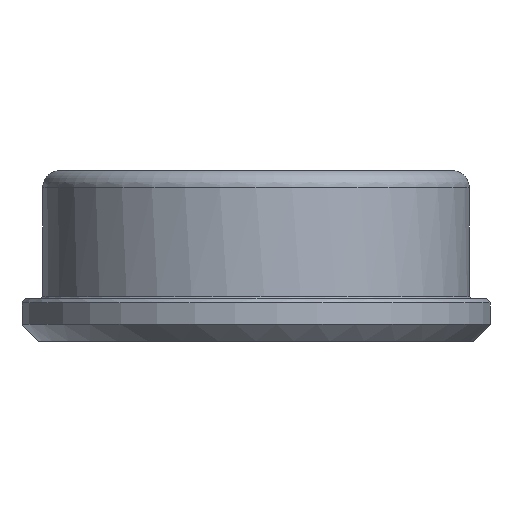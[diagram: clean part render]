
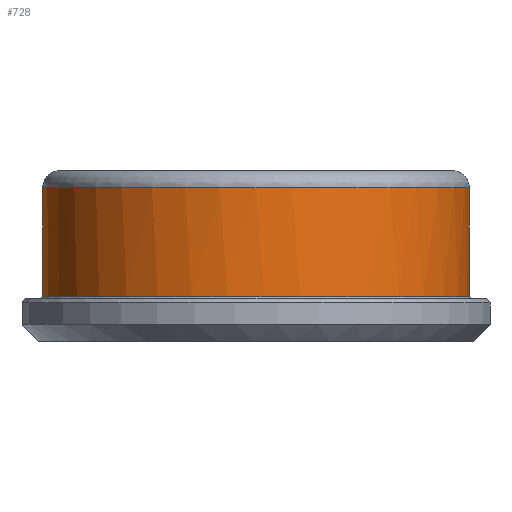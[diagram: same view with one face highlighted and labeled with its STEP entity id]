
A CAD part, left-side view. The second image highlights one B-rep face of the part: STEP entity #728.
In plain terms, the highlighted cylindrical face has radius 5 mm (diameter 10 mm), a full revolution.
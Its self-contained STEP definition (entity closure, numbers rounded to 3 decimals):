
#173 = CARTESIAN_POINT ( 'NONE',  ( 3.078, 0.6, 3.94 ) ) ;
#271 = ORIENTED_EDGE ( 'NONE', *, *, #1140, .T. ) ;
#416 = B_SPLINE_CURVE_WITH_KNOTS ( 'NONE', 3,
 ( #5023, #10132, #14123, #2507, #7465, #8992, #6335, #11385, #15447, #6276 ),
 .UNSPECIFIED., .F., .F.,
 ( 4, 2, 2, 2, 4 ),
 ( 0., 0.001, 0.001, 0.002, 0.002 ),
 .UNSPECIFIED. ) ;
#607 = CARTESIAN_POINT ( 'NONE',  ( -3.464, 0.4, 3.606 ) ) ;
#725 = EDGE_CURVE ( 'NONE', #11704, #12957, #9328, .T. ) ;
#728 = ADVANCED_FACE ( 'NONE', ( #15859, #8925 ), #1163, .T. ) ;
#1140 = EDGE_CURVE ( 'NONE', #12151, #11704, #4905, .T. ) ;
#1163 = CYLINDRICAL_SURFACE ( 'NONE', #5880, 5. ) ;
#1295 = CARTESIAN_POINT ( 'NONE',  ( 0., 2.95, 0. ) ) ;
#1465 = DIRECTION ( 'NONE',  ( 0., 0., 1. ) ) ;
#1676 = CARTESIAN_POINT ( 'NONE',  ( -3.078, 0.6, 3.94 ) ) ;
#1850 = ORIENTED_EDGE ( 'NONE', *, *, #725, .T. ) ;
#2355 = EDGE_CURVE ( 'NONE', #10589, #10589, #11915, .T. ) ;
#2507 = CARTESIAN_POINT ( 'NONE',  ( 0.343, 1.139, 4.99 ) ) ;
#2634 = EDGE_CURVE ( 'NONE', #12957, #4277, #12758, .T. ) ;
#2656 = DIRECTION ( 'NONE',  ( 0., 0., -1. ) ) ;
#2828 = DIRECTION ( 'NONE',  ( 0., 1., 0. ) ) ;
#3322 = DIRECTION ( 'NONE',  ( 0., 1., 0. ) ) ;
#4116 = CIRCLE ( 'NONE', #12416, 5. ) ;
#4277 = VERTEX_POINT ( 'NONE', #1676 ) ;
#4371 = VERTEX_POINT ( 'NONE', #16411 ) ;
#4905 = B_SPLINE_CURVE_WITH_KNOTS ( 'NONE', 3,
 ( #173, #5398, #5336, #12001 ),
 .UNSPECIFIED., .F., .F.,
 ( 4, 4 ),
 ( 0., 0.001 ),
 .UNSPECIFIED. ) ;
#5023 = CARTESIAN_POINT ( 'NONE',  ( 0.735, 0.6, 4.946 ) ) ;
#5336 = CARTESIAN_POINT ( 'NONE',  ( 3.364, 0.528, 3.702 ) ) ;
#5398 = CARTESIAN_POINT ( 'NONE',  ( 3.227, 0.6, 3.824 ) ) ;
#5823 = CARTESIAN_POINT ( 'NONE',  ( 3.464, 0.4, 3.606 ) ) ;
#5880 = AXIS2_PLACEMENT_3D ( 'NONE', #8057, #9305, #2656 ) ;
#6074 = EDGE_LOOP ( 'NONE', ( #10172, #14805, #271, #1850, #14995, #10239 ) ) ;
#6109 = ORIENTED_EDGE ( 'NONE', *, *, #2355, .T. ) ;
#6276 = CARTESIAN_POINT ( 'NONE',  ( -0.735, 0.6, 4.946 ) ) ;
#6335 = CARTESIAN_POINT ( 'NONE',  ( -0.342, 1.139, 4.99 ) ) ;
#7011 = DIRECTION ( 'NONE',  ( 0., 1., 0. ) ) ;
#7043 = CARTESIAN_POINT ( 'NONE',  ( 0., 2.95, 5. ) ) ;
#7348 = DIRECTION ( 'NONE',  ( 0., 0., 1. ) ) ;
#7465 = CARTESIAN_POINT ( 'NONE',  ( 0.171, 1.2, 5. ) ) ;
#8057 = CARTESIAN_POINT ( 'NONE',  ( 0., 4., 0. ) ) ;
#8166 = CARTESIAN_POINT ( 'NONE',  ( -0.735, 0.6, 4.946 ) ) ;
#8659 = CARTESIAN_POINT ( 'NONE',  ( -3.364, 0.528, 3.702 ) ) ;
#8704 = CARTESIAN_POINT ( 'NONE',  ( 0., 0.6, 0. ) ) ;
#8925 = FACE_OUTER_BOUND ( 'NONE', #6074, .T. ) ;
#8992 = CARTESIAN_POINT ( 'NONE',  ( -0.171, 1.2, 5. ) ) ;
#9086 = EDGE_CURVE ( 'NONE', #4277, #10892, #4116, .T. ) ;
#9305 = DIRECTION ( 'NONE',  ( 0., -1., 0. ) ) ;
#9328 = CIRCLE ( 'NONE', #13743, 5. ) ;
#10132 = CARTESIAN_POINT ( 'NONE',  ( 0.701, 0.767, 4.951 ) ) ;
#10172 = ORIENTED_EDGE ( 'NONE', *, *, #14488, .F. ) ;
#10239 = ORIENTED_EDGE ( 'NONE', *, *, #9086, .T. ) ;
#10589 = VERTEX_POINT ( 'NONE', #7043 ) ;
#10620 = CARTESIAN_POINT ( 'NONE',  ( 0., 0.4, 0. ) ) ;
#10689 = CARTESIAN_POINT ( 'NONE',  ( 3.078, 0.6, 3.94 ) ) ;
#10708 = EDGE_LOOP ( 'NONE', ( #6109 ) ) ;
#10892 = VERTEX_POINT ( 'NONE', #8166 ) ;
#10917 = AXIS2_PLACEMENT_3D ( 'NONE', #1295, #13154, #1465 ) ;
#10936 = CARTESIAN_POINT ( 'NONE',  ( -3.464, 0.4, 3.606 ) ) ;
#11385 = CARTESIAN_POINT ( 'NONE',  ( -0.607, 0.923, 4.965 ) ) ;
#11704 = VERTEX_POINT ( 'NONE', #5823 ) ;
#11915 = CIRCLE ( 'NONE', #10917, 5. ) ;
#12001 = CARTESIAN_POINT ( 'NONE',  ( 3.464, 0.4, 3.606 ) ) ;
#12151 = VERTEX_POINT ( 'NONE', #10689 ) ;
#12416 = AXIS2_PLACEMENT_3D ( 'NONE', #8704, #3322, #7348 ) ;
#12531 = CARTESIAN_POINT ( 'NONE',  ( -3.078, 0.6, 3.94 ) ) ;
#12687 = CIRCLE ( 'NONE', #16498, 5. ) ;
#12758 = B_SPLINE_CURVE_WITH_KNOTS ( 'NONE', 3,
 ( #10936, #8659, #13790, #12531 ),
 .UNSPECIFIED., .F., .F.,
 ( 4, 4 ),
 ( 0., 0.001 ),
 .UNSPECIFIED. ) ;
#12957 = VERTEX_POINT ( 'NONE', #607 ) ;
#13154 = DIRECTION ( 'NONE',  ( 0., -1., 0. ) ) ;
#13743 = AXIS2_PLACEMENT_3D ( 'NONE', #10620, #2828, #15637 ) ;
#13790 = CARTESIAN_POINT ( 'NONE',  ( -3.227, 0.6, 3.824 ) ) ;
#14123 = CARTESIAN_POINT ( 'NONE',  ( 0.606, 0.923, 4.965 ) ) ;
#14488 = EDGE_CURVE ( 'NONE', #4371, #10892, #416, .T. ) ;
#14805 = ORIENTED_EDGE ( 'NONE', *, *, #15933, .T. ) ;
#14820 = CARTESIAN_POINT ( 'NONE',  ( 0., 0.6, 0. ) ) ;
#14995 = ORIENTED_EDGE ( 'NONE', *, *, #2634, .T. ) ;
#15447 = CARTESIAN_POINT ( 'NONE',  ( -0.701, 0.768, 4.951 ) ) ;
#15637 = DIRECTION ( 'NONE',  ( 0., 0., 1. ) ) ;
#15859 = FACE_OUTER_BOUND ( 'NONE', #10708, .T. ) ;
#15933 = EDGE_CURVE ( 'NONE', #4371, #12151, #12687, .T. ) ;
#16108 = DIRECTION ( 'NONE',  ( 0., 0., 1. ) ) ;
#16411 = CARTESIAN_POINT ( 'NONE',  ( 0.735, 0.6, 4.946 ) ) ;
#16498 = AXIS2_PLACEMENT_3D ( 'NONE', #14820, #7011, #16108 ) ;
